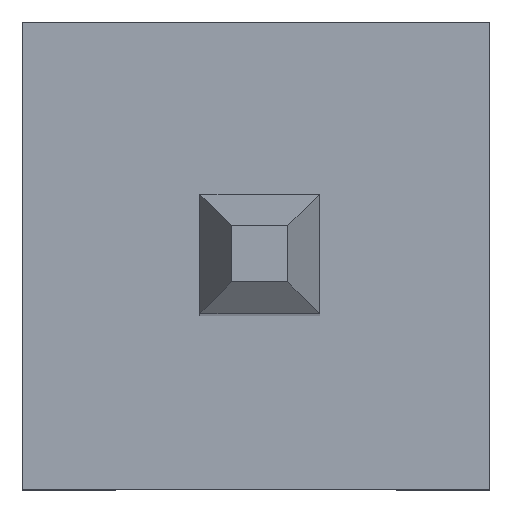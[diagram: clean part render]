
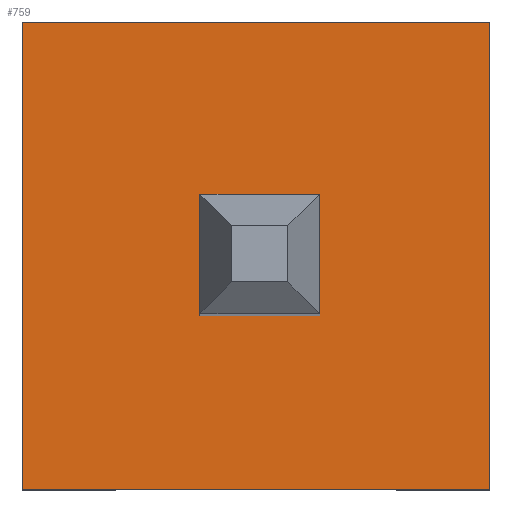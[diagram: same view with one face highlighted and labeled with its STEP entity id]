
A CAD part, top view. The second image highlights one B-rep face of the part: STEP entity #759.
In plain terms, the highlighted planar face has unit normal (0, 0, 1).
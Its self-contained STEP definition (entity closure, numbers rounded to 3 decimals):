
#28 = AXIS2_PLACEMENT_3D ( 'NONE', #423, #76, #329 ) ;
#30 = CARTESIAN_POINT ( 'NONE',  ( 5.021, 6.534, 4.806 ) ) ;
#31 = VERTEX_POINT ( 'NONE', #646 ) ;
#32 = DIRECTION ( 'NONE',  ( -1., 0., 0. ) ) ;
#38 = LINE ( 'NONE', #436, #445 ) ;
#43 = CARTESIAN_POINT ( 'NONE',  ( 6.571, 6.38, 4.806 ) ) ;
#64 = LINE ( 'NONE', #250, #665 ) ;
#76 = DIRECTION ( 'NONE',  ( 0., 0., 1. ) ) ;
#79 = ORIENTED_EDGE ( 'NONE', *, *, #764, .T. ) ;
#93 = VECTOR ( 'NONE', #273, 1000. ) ;
#102 = ORIENTED_EDGE ( 'NONE', *, *, #216, .F. ) ;
#112 = CARTESIAN_POINT ( 'NONE',  ( 5.021, 7.31, 4.806 ) ) ;
#116 = CARTESIAN_POINT ( 'NONE',  ( 5.661, 7.95, 4.806 ) ) ;
#140 = ORIENTED_EDGE ( 'NONE', *, *, #380, .F. ) ;
#147 = VECTOR ( 'NONE', #235, 1000. ) ;
#160 = EDGE_CURVE ( 'NONE', #453, #647, #610, .T. ) ;
#163 = FACE_BOUND ( 'NONE', #518, .T. ) ;
#166 = VERTEX_POINT ( 'NONE', #43 ) ;
#183 = VERTEX_POINT ( 'NONE', #738 ) ;
#186 = EDGE_CURVE ( 'NONE', #530, #183, #38, .T. ) ;
#198 = ORIENTED_EDGE ( 'NONE', *, *, #517, .T. ) ;
#204 = DIRECTION ( 'NONE',  ( 1., 0., 0. ) ) ;
#216 = EDGE_CURVE ( 'NONE', #647, #530, #348, .T. ) ;
#227 = LINE ( 'NONE', #30, #93 ) ;
#231 = VECTOR ( 'NONE', #204, 1000. ) ;
#234 = EDGE_CURVE ( 'NONE', #767, #31, #64, .T. ) ;
#235 = DIRECTION ( 'NONE',  ( 1., 0., 0. ) ) ;
#245 = DIRECTION ( 'NONE',  ( 0., 1., 0. ) ) ;
#250 = CARTESIAN_POINT ( 'NONE',  ( 4.071, -16.52, 4.806 ) ) ;
#273 = DIRECTION ( 'NONE',  ( 0., 1., 0. ) ) ;
#285 = FACE_OUTER_BOUND ( 'NONE', #789, .T. ) ;
#295 = VECTOR ( 'NONE', #558, 1000. ) ;
#326 = ORIENTED_EDGE ( 'NONE', *, *, #424, .T. ) ;
#329 = DIRECTION ( 'NONE',  ( 1., 0., 0. ) ) ;
#348 = LINE ( 'NONE', #732, #295 ) ;
#380 = EDGE_CURVE ( 'NONE', #31, #687, #755, .T. ) ;
#390 = DIRECTION ( 'NONE',  ( 1., 0., 0. ) ) ;
#408 = CARTESIAN_POINT ( 'NONE',  ( 5.021, 7.31, 4.806 ) ) ;
#418 = VECTOR ( 'NONE', #390, 1000. ) ;
#423 = CARTESIAN_POINT ( 'NONE',  ( 4.071, 6.534, 4.806 ) ) ;
#424 = EDGE_CURVE ( 'NONE', #453, #183, #227, .T. ) ;
#436 = CARTESIAN_POINT ( 'NONE',  ( 5.021, 7.95, 4.806 ) ) ;
#440 = CARTESIAN_POINT ( 'NONE',  ( 6.571, 6.534, 4.806 ) ) ;
#445 = VECTOR ( 'NONE', #32, 1000. ) ;
#450 = CARTESIAN_POINT ( 'NONE',  ( 4.071, 8.88, 4.806 ) ) ;
#453 = VERTEX_POINT ( 'NONE', #408 ) ;
#456 = VECTOR ( 'NONE', #810, 1000. ) ;
#458 = ORIENTED_EDGE ( 'NONE', *, *, #234, .F. ) ;
#460 = CARTESIAN_POINT ( 'NONE',  ( 5.661, 7.31, 4.806 ) ) ;
#461 = CARTESIAN_POINT ( 'NONE',  ( 4.071, 6.38, 4.806 ) ) ;
#517 = EDGE_CURVE ( 'NONE', #166, #687, #803, .T. ) ;
#518 = EDGE_LOOP ( 'NONE', ( #651, #326, #721, #102 ) ) ;
#523 = LINE ( 'NONE', #766, #231 ) ;
#530 = VERTEX_POINT ( 'NONE', #116 ) ;
#558 = DIRECTION ( 'NONE',  ( 0., 1., 0. ) ) ;
#610 = LINE ( 'NONE', #112, #147 ) ;
#646 = CARTESIAN_POINT ( 'NONE',  ( 4.071, 8.88, 4.806 ) ) ;
#647 = VERTEX_POINT ( 'NONE', #460 ) ;
#651 = ORIENTED_EDGE ( 'NONE', *, *, #160, .F. ) ;
#665 = VECTOR ( 'NONE', #245, 1000. ) ;
#687 = VERTEX_POINT ( 'NONE', #776 ) ;
#720 = PLANE ( 'NONE',  #28 ) ;
#721 = ORIENTED_EDGE ( 'NONE', *, *, #186, .F. ) ;
#732 = CARTESIAN_POINT ( 'NONE',  ( 5.661, 7.95, 4.806 ) ) ;
#738 = CARTESIAN_POINT ( 'NONE',  ( 5.021, 7.95, 4.806 ) ) ;
#755 = LINE ( 'NONE', #450, #418 ) ;
#759 = ADVANCED_FACE ( 'NONE', ( #285, #163 ), #720, .T. ) ;
#764 = EDGE_CURVE ( 'NONE', #767, #166, #523, .T. ) ;
#766 = CARTESIAN_POINT ( 'NONE',  ( 4.071, 6.38, 4.806 ) ) ;
#767 = VERTEX_POINT ( 'NONE', #461 ) ;
#776 = CARTESIAN_POINT ( 'NONE',  ( 6.571, 8.88, 4.806 ) ) ;
#789 = EDGE_LOOP ( 'NONE', ( #458, #79, #198, #140 ) ) ;
#803 = LINE ( 'NONE', #440, #456 ) ;
#810 = DIRECTION ( 'NONE',  ( 0., 1., 0. ) ) ;
